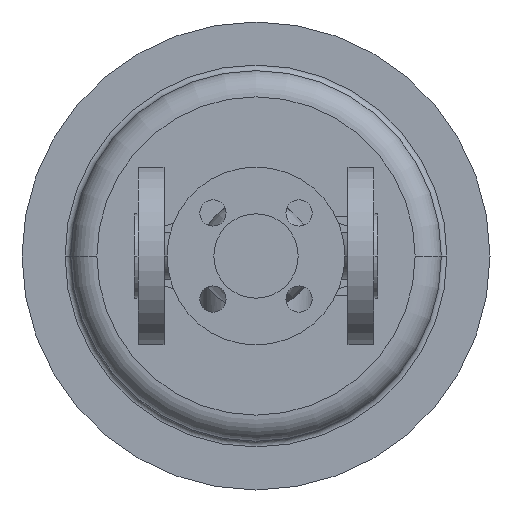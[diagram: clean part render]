
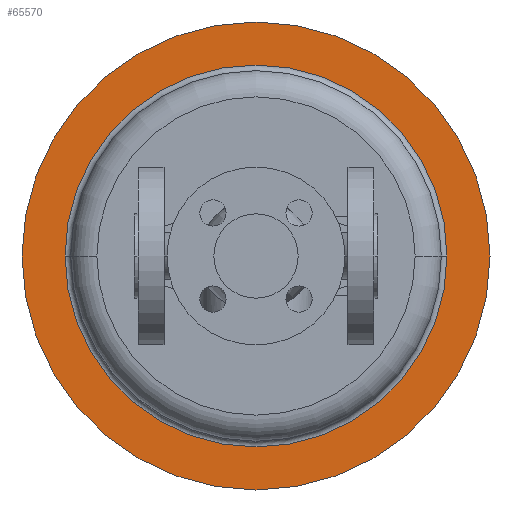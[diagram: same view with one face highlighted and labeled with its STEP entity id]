
A CAD part, front view. The second image highlights one B-rep face of the part: STEP entity #65570.
In plain terms, the highlighted planar face has unit normal (0, -1, 0).
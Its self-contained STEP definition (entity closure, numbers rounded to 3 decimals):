
#50610=CARTESIAN_POINT('',(190.,568.,0.));
#50620=VERTEX_POINT('',#50610);
#50780=CARTESIAN_POINT('',(-60.,568.,0.));
#50790=VERTEX_POINT('',#50780);
#50820=CARTESIAN_POINT('',(65.,568.,0.));
#50830=DIRECTION('',(0.,1.,0.));
#50840=DIRECTION('',(1.,0.,0.));
#50850=AXIS2_PLACEMENT_3D('',#50820,#50830,#50840);
#50860=CIRCLE('',#50850,125.);
#50870=EDGE_CURVE('',#50620,#50790,#50860,.T.);
#50970=CARTESIAN_POINT('',(65.,568.,0.));
#50980=DIRECTION('',(0.,1.,0.));
#50990=DIRECTION('',(1.,0.,0.));
#51000=AXIS2_PLACEMENT_3D('',#50970,#50980,#50990);
#51010=CIRCLE('',#51000,102.);
#51020=CARTESIAN_POINT('',(65.,568.,102.));
#51030=VERTEX_POINT('',#51020);
#51040=CARTESIAN_POINT('',(167.,568.,0.));
#51050=VERTEX_POINT('',#51040);
#51060=EDGE_CURVE('',#51030,#51050,#51010,.T.);
#51310=CARTESIAN_POINT('',(-37.,568.,0.));
#51320=VERTEX_POINT('',#51310);
#51350=EDGE_CURVE('',#51320,#51030,#51010,.T.);
#65410=CARTESIAN_POINT('',(178.5,568.,0.));
#65420=DIRECTION('',(0.,-1.,0.));
#65430=DIRECTION('',(-1.,0.,0.));
#65440=AXIS2_PLACEMENT_3D('',#65410,#65420,#65430);
#65450=PLANE('',#65440);
#65460=EDGE_CURVE('',#50790,#50620,#50860,.T.);
#65470=ORIENTED_EDGE('',*,*,#65460,.F.);
#65480=ORIENTED_EDGE('',*,*,#50870,.F.);
#65490=EDGE_LOOP('',(#65480,#65470));
#65500=FACE_OUTER_BOUND('',#65490,.T.);
#65510=EDGE_CURVE('',#51050,#51320,#51010,.T.);
#65520=ORIENTED_EDGE('',*,*,#65510,.T.);
#65530=ORIENTED_EDGE('',*,*,#51060,.T.);
#65540=ORIENTED_EDGE('',*,*,#51350,.T.);
#65550=EDGE_LOOP('',(#65540,#65530,#65520));
#65560=FACE_BOUND('',#65550,.T.);
#65570=ADVANCED_FACE('',(#65500,#65560),#65450,.T.);
